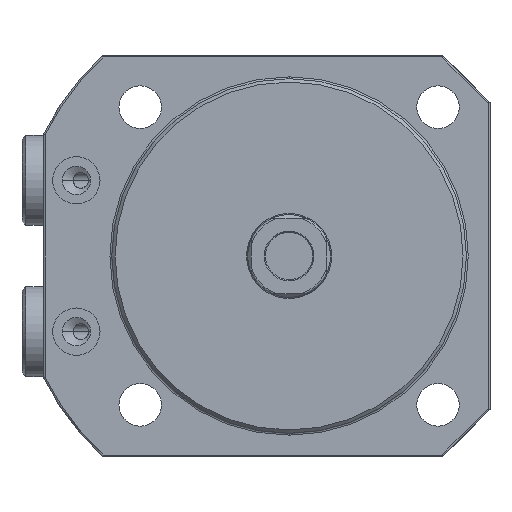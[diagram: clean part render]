
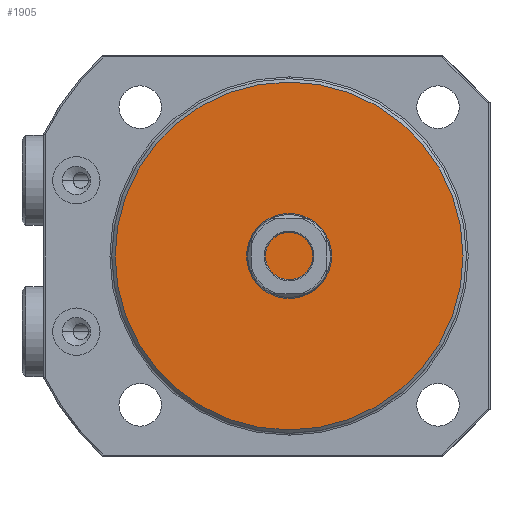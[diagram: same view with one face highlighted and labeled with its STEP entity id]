
A CAD part, front view. The second image highlights one B-rep face of the part: STEP entity #1905.
In plain terms, the highlighted planar face has unit normal (0, -1, 0) as drawn and (-1, 0, 0) by its records, which use the part's own axes.
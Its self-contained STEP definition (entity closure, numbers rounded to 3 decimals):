
#1621=PLANE('',#7084);
#1905=ADVANCED_FACE('',(#2295),#1621,.F.);
#2295=FACE_OUTER_BOUND('',#2625,.T.);
#2625=EDGE_LOOP('',(#3856));
#3856=ORIENTED_EDGE('',*,*,#5904,.T.);
#5345=VERTEX_POINT('',#9834);
#5904=EDGE_CURVE('',#5345,#5345,#6646,.T.);
#6646=CIRCLE('',#7083,36.8);
#7083=AXIS2_PLACEMENT_3D('',#9833,#7982,#7983);
#7084=AXIS2_PLACEMENT_3D('',#9835,#7984,#7985);
#7982=DIRECTION('',(-1.,0.,0.));
#7983=DIRECTION('',(0.,0.,-1.));
#7984=DIRECTION('',(1.,0.,0.));
#7985=DIRECTION('',(0.,0.,1.));
#9833=CARTESIAN_POINT('',(0.,0.,0.));
#9834=CARTESIAN_POINT('',(0.,0.,-36.8));
#9835=CARTESIAN_POINT('',(0.,0.,0.));
